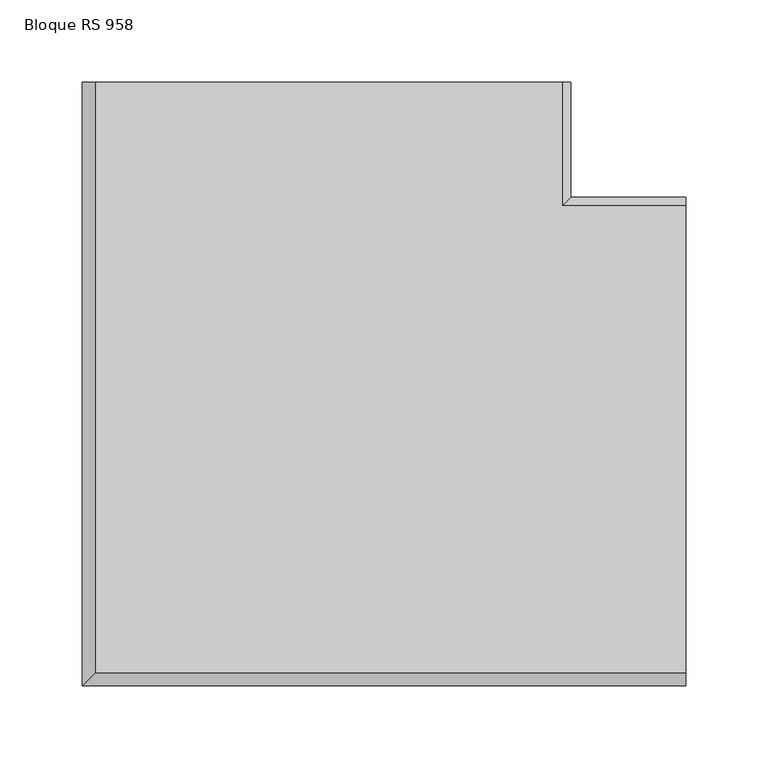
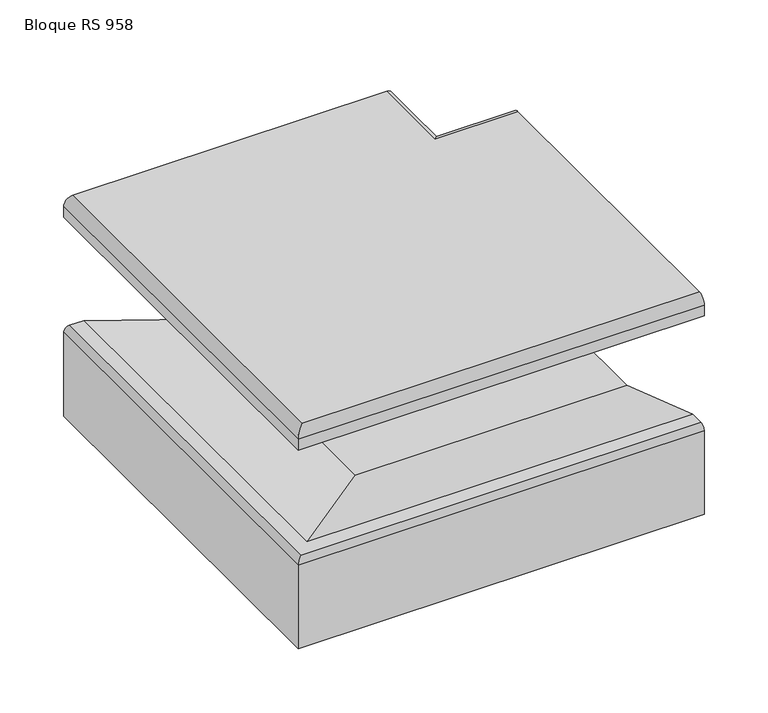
"""IFC4 building model written with IfcOpenShell, lengths in millimetres: proxy geometry, ROSA GRES_RS 958 : Bloque RS 958."""

from ifc_helpers import new_model, si_unit, frame, origin, place, context, project, spatial, polyline, circle_curve, ellipse_curve, source, transform, mapped, element, save
from ifc_brep_helpers import plane_surface, cylinder_surface, revolved_surface, advanced_brep


def bloque_rs_958_1773c589(model_context):
    return source(origin(), model_context, "Body", "AdvancedBrep", [
        advanced_brep(
        [(14.0082203, 381.2082203, 90.0143402), (19.0082203, 381.2082203, 95.0143402), (32.2117455, 381.2082203, 95.0143402), (135.2841845, 381.2082203, 60.0887812), (219.0681536, 381.2082203, 60.0887812), (244.0082203, 381.2082203, 85.0887812), (244.0082203, 381.2082203, 128.944249), (225.9145301, 381.2082203, 153.0321804), (135.4877096, 381.2082203, 178.2923063), (14.0082107, 381.2082203, 200.0887812), (14.0082107, 381.2082203, 210.2824885), (22.0082107, 381.2082203, 218.2824885), (306.000211, 381.2082203, 218.2824885), (311.2117358, 381.2082203, 213.2873902), (311.2117358, 381.2082203, 20.0), (301.5251078, 381.2082203, 10.0049113), (14.0082203, 381.2082203, 10.0049113), (381.2082203, 14.0082203, 90.0143402), (381.2082203, 14.0082203, 10.0049113), (381.2082203, 301.5251078, 10.0049113), (381.2082203, 311.2117358, 20.0), (381.2082203, 311.2117358, 213.2873902), (381.2082203, 306.000211, 218.2824885), (381.2082203, 22.0082107, 218.2824885), (381.2082203, 14.0082107, 210.2824885), (381.2082203, 14.0082107, 200.0887812), (381.2082203, 135.4877096, 178.2923063), (381.2082203, 225.9145301, 153.0321804), (381.2082203, 244.0082203, 128.944249), (381.2082203, 244.0082203, 85.0887812), (381.2082203, 219.0681536, 60.0887812), (381.2082203, 135.2841845, 60.0887812), (381.2082203, 32.2117455, 95.0143402), (381.2082203, 19.0082203, 95.0143402), (301.5251078, 301.5251078, 10.0049113), (14.0082203, 14.0082203, 10.0049113), (14.0082203, 14.0082203, 90.0143402), (19.0082203, 19.0082203, 95.0143402), (32.2117455, 32.2117455, 95.0143402), (135.2841845, 135.2841845, 60.0887812), (219.0681536, 219.0681536, 60.0887812), (244.0082203, 244.0082203, 85.0887812), (244.0082203, 244.0082203, 128.944249), (225.9145301, 225.9145301, 153.0321804), (135.4877096, 135.4877096, 178.2923063), (14.0082107, 14.0082107, 200.0887812), (14.0082107, 14.0082107, 210.2824885), (22.0082107, 22.0082107, 218.2824885), (306.000211, 306.000211, 218.2824885), (311.2117358, 311.2117358, 213.2873902), (311.2117358, 311.2117358, 20.0)],
        [
            (0, 1, circle_curve(frame((19.0082203, 381.2082203, 90.0143402), z_axis=(0.0, 1.0, 0.0), x_axis=(1.0, 0.0, 0.0)), 5.0)),
            (1, 2),
            (2, 3),
            (3, 4),
            (4, 5, circle_curve(frame((219.2543332, 381.2082203, 84.8431865), z_axis=(0.0, -1.0, 0.0), x_axis=(1.0, 0.0, 0.0)), 24.7551055)),
            (5, 6),
            (6, 7, circle_curve(frame((219.2543332, 381.2082203, 129.1898436), z_axis=(0.0, -1.0, 0.0), x_axis=(1.0, 0.0, 0.0)), 24.7551055)),
            (7, 8),
            (8, 9),
            (9, 10),
            (10, 11, circle_curve(frame((22.0082107, 381.2082203, 210.2824885), z_axis=(0.0, 1.0, 0.0), x_axis=(1.0, 0.0, 0.0)), 8.0)),
            (11, 12),
            (12, 13, circle_curve(frame((306.2215537, 381.2082203, 213.297208), z_axis=(0.0, 1.0, 0.0), x_axis=(1.0, 0.0, 0.0)), 4.9901918)),
            (13, 14),
            (14, 15, circle_curve(frame((301.2117358, 381.2082203, 20.0), z_axis=(0.0, 1.0, 0.0), x_axis=(1.0, 0.0, 0.0)), 10.0)),
            (15, 16),
            (16, 0),
            (17, 18),
            (18, 19),
            (19, 20, circle_curve(frame((381.2082203, 301.2117358, 20.0), z_axis=(1.0, 0.0, 0.0), x_axis=(0.0, 1.0, 0.0)), 10.0)),
            (20, 21),
            (21, 22, circle_curve(frame((381.2082203, 306.2215537, 213.297208), z_axis=(1.0, 0.0, 0.0), x_axis=(0.0, 1.0, 0.0)), 4.9901918)),
            (22, 23),
            (23, 24, circle_curve(frame((381.2082203, 22.0082107, 210.2824885), z_axis=(1.0, 0.0, 0.0), x_axis=(0.0, 1.0, 0.0)), 8.0)),
            (24, 25),
            (25, 26),
            (26, 27),
            (27, 28, circle_curve(frame((381.2082203, 219.2543332, 129.1898436), z_axis=(-1.0, 0.0, 0.0), x_axis=(0.0, 1.0, 0.0)), 24.7551055)),
            (28, 29),
            (29, 30, circle_curve(frame((381.2082203, 219.2543332, 84.8431865), z_axis=(-1.0, 0.0, 0.0), x_axis=(0.0, 1.0, 0.0)), 24.7551055)),
            (30, 31),
            (31, 32),
            (32, 33),
            (33, 17, circle_curve(frame((381.2082203, 19.0082203, 90.0143402), z_axis=(1.0, 0.0, 0.0), x_axis=(0.0, 1.0, 0.0)), 5.0)),
            (15, 34),
            (34, 19),
            (18, 35),
            (35, 16),
            (35, 36),
            (36, 0),
            (17, 36),
            (36, 37, ellipse_curve(frame((19.0082203, 19.0082203, 90.0143402), z_axis=(-0.7071067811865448, 0.7071067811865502, 0.0), x_axis=(0.7071067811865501, 0.7071067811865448, 0.0)), 7.0710678, 5.0)),
            (37, 1),
            (37, 33),
            (32, 38),
            (38, 2),
            (38, 39),
            (39, 3),
            (39, 31),
            (30, 40),
            (40, 4),
            (40, 41, ellipse_curve(frame((219.2543332, 219.2543332, 84.8431865), z_axis=(0.7071067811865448, -0.7071067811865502, 0.0), x_axis=(-0.7071067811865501, -0.7071067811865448, 0.0)), 35.0090059, 24.7551055)),
            (41, 5),
            (41, 42),
            (42, 6),
            (42, 43, ellipse_curve(frame((219.2543332, 219.2543332, 129.1898436), z_axis=(0.7071067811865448, -0.7071067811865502, 0.0), x_axis=(-0.7071067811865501, -0.7071067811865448, 0.0)), 35.0090059, 24.7551055)),
            (43, 7),
            (43, 44),
            (44, 8),
            (44, 45),
            (45, 9),
            (45, 46),
            (46, 10),
            (46, 47, ellipse_curve(frame((22.0082107, 22.0082107, 210.2824885), z_axis=(-0.7071067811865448, 0.7071067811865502, 0.0), x_axis=(0.7071067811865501, 0.7071067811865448, 0.0)), 11.3137085, 8.0)),
            (47, 11),
            (47, 23),
            (22, 48),
            (48, 12),
            (48, 49, ellipse_curve(frame((306.2215537, 306.2215537, 213.297208), z_axis=(-0.7071067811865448, 0.7071067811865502, 0.0), x_axis=(0.7071067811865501, 0.7071067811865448, 0.0)), 7.057197, 4.9901918)),
            (49, 13),
            (49, 50),
            (50, 14),
            (50, 34, ellipse_curve(frame((301.2117358, 301.2117358, 20.0), z_axis=(-0.7071067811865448, 0.7071067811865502, 0.0), x_axis=(0.7071067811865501, 0.7071067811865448, 0.0)), 14.1421356, 10.0)),
            (29, 41),
            (28, 42),
            (27, 43),
            (26, 44),
            (25, 45),
            (24, 46),
            (21, 49),
            (20, 50),
        ],
        [
            plane_surface(frame((0.0082203, 381.2082203, 0.0), z_axis=(0.0, 1.0, 0.0), x_axis=(0.0, 0.0, 1.0))),
            plane_surface(frame((381.2082203, 0.0082203, 0.0), z_axis=(1.0, 0.0, 0.0), x_axis=(0.0, 0.0, 1.0))),
            plane_surface(frame((301.5251078, 381.2082203, 10.0049113), z_axis=(0.0, 0.0, -1.0), x_axis=(0.0, -1.0, 0.0))),
            plane_surface(frame((14.0082203, 381.2082203, 10.0049113), z_axis=(-1.0, 0.0, 0.0), x_axis=(0.0, -1.0, 0.0))),
            plane_surface(frame((14.0082203, 14.0082203, 10.0049113), z_axis=(0.0, -1.0, 0.0), x_axis=(1.0, 0.0, 0.0))),
            cylinder_surface(frame((19.0082203, 381.2082203, 90.0143402), z_axis=(0.0, 1.0, 0.0), x_axis=(1.0, 0.0, 0.0)), 5.0),
            plane_surface(frame((19.0082203, 381.2082203, 95.0143402), z_axis=(0.0, 0.0, 1.0), x_axis=(0.0, -1.0, 0.0))),
            plane_surface(frame((32.2117455, 381.2082203, 95.0143402), z_axis=(0.32092182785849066, 0.0, 0.9471056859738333), x_axis=(0.0, -1.0, 0.0))),
            plane_surface(frame((135.2841845, 381.2082203, 60.0887812), z_axis=(0.0, 0.0, 1.0), x_axis=(0.0, -1.0, 0.0))),
            revolved_surface(polyline([(244.00943869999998, 194.49922772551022, 84.8431865), (244.00943869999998, 381.2082203, 84.8431865)]), (219.2543332, 381.2082203, 84.8431865), (0.0, -1.0, 0.0)),
            plane_surface(frame((244.0082203, 381.2082203, 85.0887812), z_axis=(-1.0, 0.0, 0.0), x_axis=(0.0, -1.0, 0.0))),
            revolved_surface(polyline([(244.00943869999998, 194.49922772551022, 129.1898436), (244.00943869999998, 381.2082203, 129.1898436)]), (219.2543332, 381.2082203, 129.1898436), (0.0, -1.0, 0.0)),
            plane_surface(frame((225.9145301, 381.2082203, 153.0321804), z_axis=(-0.26904336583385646, 0.0, -0.9631280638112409), x_axis=(0.0, -1.0, 0.0))),
            plane_surface(frame((135.4877096, 381.2082203, 178.2923063), z_axis=(-0.17660489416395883, 0.0, -0.9842818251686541), x_axis=(0.0, -1.0, 0.0))),
            plane_surface(frame((14.0082107, 381.2082203, 200.0887812), z_axis=(-1.0, 0.0, 0.0), x_axis=(0.0, -1.0, 0.0))),
            cylinder_surface(frame((22.0082107, 381.2082203, 210.2824885), z_axis=(0.0, 1.0, 0.0), x_axis=(1.0, 0.0, 0.0)), 8.0),
            plane_surface(frame((22.0082107, 381.2082203, 218.2824885), z_axis=(0.0, 0.0, 1.0), x_axis=(0.0, -1.0, 0.0))),
            cylinder_surface(frame((306.2215537, 381.2082203, 213.297208), z_axis=(0.0, 1.0, 0.0), x_axis=(1.0, 0.0, 0.0)), 4.9901918),
            plane_surface(frame((311.2117358, 381.2082203, 213.2873902), z_axis=(1.0, 0.0, 0.0), x_axis=(0.0, -1.0, 0.0))),
            cylinder_surface(frame((301.2117358, 381.2082203, 20.0), z_axis=(0.0, 1.0, 0.0), x_axis=(1.0, 0.0, 0.0)), 10.0),
            cylinder_surface(frame((0.0082203, 19.0082203, 90.0143402), z_axis=(-1.0, 0.0, 0.0), x_axis=(0.0, 1.0, 0.0)), 5.0),
            plane_surface(frame((32.2117455, 32.2117455, 95.0143402), z_axis=(0.0, 0.3209218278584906, 0.9471056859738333), x_axis=(1.0, 0.0, 0.0))),
            revolved_surface(polyline([(381.2082203, 244.00943869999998, 84.8431865), (194.49922772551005, 244.00943869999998, 84.8431865)]), (0.0082203, 219.2543332, 84.8431865), (1.0, 0.0, 0.0)),
            plane_surface(frame((244.0082203, 244.0082203, 85.0887812), z_axis=(0.0, -1.0, 0.0), x_axis=(1.0, 0.0, 0.0))),
            revolved_surface(polyline([(381.2082203, 244.00943869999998, 129.1898436), (194.49922772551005, 244.00943869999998, 129.1898436)]), (0.0082203, 219.2543332, 129.1898436), (1.0, 0.0, 0.0)),
            plane_surface(frame((225.9145301, 225.9145301, 153.0321804), z_axis=(0.0, -0.2690433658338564, -0.9631280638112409), x_axis=(1.0, 0.0, 0.0))),
            plane_surface(frame((135.4877096, 135.4877096, 178.2923063), z_axis=(0.0, -0.1766048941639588, -0.9842818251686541), x_axis=(1.0, 0.0, 0.0))),
            plane_surface(frame((14.0082107, 14.0082107, 200.0887812), z_axis=(0.0, -1.0, 0.0), x_axis=(1.0, 0.0, 0.0))),
            cylinder_surface(frame((0.0082203, 22.0082107, 210.2824885), z_axis=(-1.0, 0.0, 0.0), x_axis=(0.0, 1.0, 0.0)), 8.0),
            cylinder_surface(frame((0.0082203, 306.2215537, 213.297208), z_axis=(-1.0, 0.0, 0.0), x_axis=(0.0, 1.0, 0.0)), 4.9901918),
            plane_surface(frame((311.2117358, 311.2117358, 213.2873902), z_axis=(0.0, 1.0, 0.0), x_axis=(1.0, 0.0, 0.0))),
            cylinder_surface(frame((0.0082203, 301.2117358, 20.0), z_axis=(-1.0, 0.0, 0.0), x_axis=(0.0, 1.0, 0.0)), 10.0),
        ],
        [
            (0, [[1, 2, 3, 4, 5, 6, 7, 8, 9, 10, 11, 12, 13, 14, 15, 16, 17]]),
            (1, [[18, 19, 20, 21, 22, 23, 24, 25, 26, 27, 28, 29, 30, 31, 32, 33, 34]]),
            (2, [[-16, 35, 36, -19, 37, 38]]),
            (3, [[-17, -38, 39, 40]]),
            (4, [[-39, -37, -18, 41]]),
            (5, [[-1, -40, 42, 43]]),
            (6, [[-2, -43, 44, -33, 45, 46]]),
            (7, [[-3, -46, 47, 48]]),
            (8, [[-4, -48, 49, -31, 50, 51]]),
            (9, [[-5, -51, 52, 53]]),
            (10, [[-6, -53, 54, 55]]),
            (11, [[-7, -55, 56, 57]]),
            (12, [[-8, -57, 58, 59]]),
            (13, [[-9, -59, 60, 61]]),
            (14, [[-10, -61, 62, 63]]),
            (15, [[-11, -63, 64, 65]]),
            (16, [[-12, -65, 66, -23, 67, 68]]),
            (17, [[-13, -68, 69, 70]]),
            (18, [[-14, -70, 71, 72]]),
            (19, [[-15, -72, 73, -35]]),
            (20, [[-42, -41, -34, -44]]),
            (21, [[-47, -45, -32, -49]]),
            (22, [[-52, -50, -30, 74]]),
            (23, [[-54, -74, -29, 75]]),
            (24, [[-56, -75, -28, 76]]),
            (25, [[-58, -76, -27, 77]]),
            (26, [[-60, -77, -26, 78]]),
            (27, [[-62, -78, -25, 79]]),
            (28, [[-64, -79, -24, -66]]),
            (29, [[-69, -67, -22, 80]]),
            (30, [[-71, -80, -21, 81]]),
            (31, [[-73, -81, -20, -36]]),
        ],
    ),
    ])


if __name__ == "__main__":
    model = new_model("IFC4")
    model_context = context("Model", 3, world=origin())
    ifc_project = project(units=[si_unit("LENGTHUNIT", "METRE", prefix="MILLI")], contexts=[model_context])
    site = spatial("IfcSite", under=ifc_project)
    building = spatial("IfcBuilding", under=site)
    placement = place(None, origin())
    bloque_rs_958_shape = bloque_rs_958_1773c589(model_context)
    element("IfcBuildingElementProxy", 1, Name="ROSA GRES_RS 958 : Bloque RS 958", ObjectType="ROSA GRES_RS 958 : Bloque RS 958", at=placement, inside=building, context=model_context, shape_type="MappedRepresentation", body=[
        mapped(bloque_rs_958_shape, transform((0.0, 0.0, 0.0), x_axis=(1.0, 0.0, 0.0), y_axis=(0.0, 1.0, 0.0), z_axis=(0.0, 0.0, 1.0))),
    ])
    save(model, "model.ifc")
